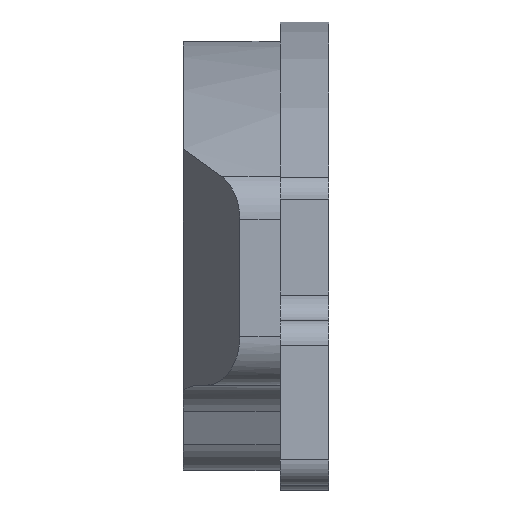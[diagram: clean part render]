
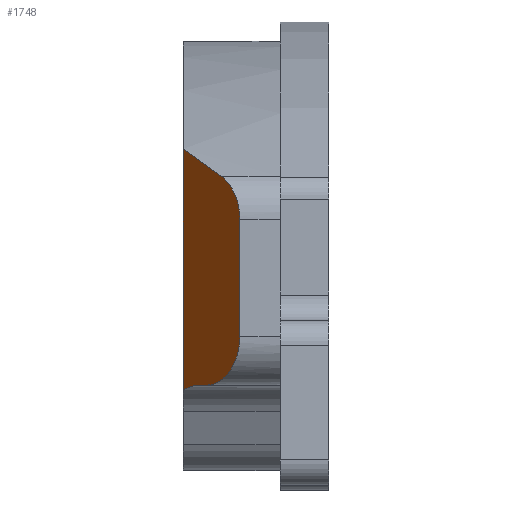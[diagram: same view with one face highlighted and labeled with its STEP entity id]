
A CAD part, left-side view. The second image highlights one B-rep face of the part: STEP entity #1748.
In plain terms, the highlighted planar face has unit normal (-0.573, 0.82, 0).
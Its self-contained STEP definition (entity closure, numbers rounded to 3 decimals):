
#3 = EDGE_CURVE ( 'NONE', #742, #447, #895, .T. ) ;
#70 = VERTEX_POINT ( 'NONE', #513 ) ;
#88 = CARTESIAN_POINT ( 'NONE',  ( -4.118, 15., -0.056 ) ) ;
#97 = ORIENTED_EDGE ( 'NONE', *, *, #3, .F. ) ;
#107 = CARTESIAN_POINT ( 'NONE',  ( -4.118, 15., -7.326 ) ) ;
#121 = CARTESIAN_POINT ( 'NONE',  ( -6.313, 13.465, -24.415 ) ) ;
#175 = EDGE_CURVE ( 'NONE', #1119, #1766, #1057, .T. ) ;
#232 = ORIENTED_EDGE ( 'NONE', *, *, #624, .F. ) ;
#249 = CARTESIAN_POINT ( 'NONE',  ( -7.921, 12.341, -1.912 ) ) ;
#273 = VERTEX_POINT ( 'NONE', #1465 ) ;
#306 = EDGE_CURVE ( 'NONE', #1766, #742, #715, .T. ) ;
#316 = B_SPLINE_CURVE_WITH_KNOTS ( 'NONE', 3,
 ( #88, #1824, #249, #389 ),
 .UNSPECIFIED., .F., .F.,
 ( 4, 4 ),
 ( 0., 0.007 ),
 .UNSPECIFIED. ) ;
#364 = ORIENTED_EDGE ( 'NONE', *, *, #643, .F. ) ;
#369 = CARTESIAN_POINT ( 'NONE',  ( -7.453, 12.668, -24.415 ) ) ;
#389 = CARTESIAN_POINT ( 'NONE',  ( -9.799, 11.027, -2.91 ) ) ;
#394 = VECTOR ( 'NONE', #1662, 1000. ) ;
#439 = LINE ( 'NONE', #107, #1713 ) ;
#447 = VERTEX_POINT ( 'NONE', #957 ) ;
#476 = EDGE_LOOP ( 'NONE', ( #232, #1545, #97, #1316, #1171, #364, #1715 ) ) ;
#491 = EDGE_CURVE ( 'NONE', #70, #447, #439, .T. ) ;
#513 = CARTESIAN_POINT ( 'NONE',  ( -4.118, 15., -0.056 ) ) ;
#544 = CARTESIAN_POINT ( 'NONE',  ( -4.118, 15., -24.923 ) ) ;
#624 = EDGE_CURVE ( 'NONE', #70, #905, #316, .T. ) ;
#641 = CARTESIAN_POINT ( 'NONE',  ( -12.453, 9.171, -7.326 ) ) ;
#643 = EDGE_CURVE ( 'NONE', #273, #1119, #1540, .T. ) ;
#715 = LINE ( 'NONE', #798, #394 ) ;
#742 = VERTEX_POINT ( 'NONE', #1518 ) ;
#756 = CARTESIAN_POINT ( 'NONE',  ( -12.453, 9.171, -19.415 ) ) ;
#798 = CARTESIAN_POINT ( 'NONE',  ( -6.358, 13.434, -24.415 ) ) ;
#824 = PLANE ( 'NONE',  #1359 ) ;
#868 = CARTESIAN_POINT ( 'NONE',  ( -12.453, 9.171, -19.415 ) ) ;
#880 = EDGE_CURVE ( 'NONE', #905, #273, #1860, .T. ) ;
#894 = FACE_OUTER_BOUND ( 'NONE', #476, .T. ) ;
#895 =( BOUNDED_CURVE ( )  B_SPLINE_CURVE ( 3, ( #121, #1707, #1402, #544 ),
 .UNSPECIFIED., .F., .T. ) 
 B_SPLINE_CURVE_WITH_KNOTS ( ( 4, 4 ),
 ( 1.571, 2.025 ),
 .UNSPECIFIED. ) 
 CURVE ( )  GEOMETRIC_REPRESENTATION_ITEM ( )  RATIONAL_B_SPLINE_CURVE ( ( 1., 0.983, 0.983, 1. ) ) 
 REPRESENTATION_ITEM ( '' )  );
#905 = VERTEX_POINT ( 'NONE', #1528 ) ;
#906 = CARTESIAN_POINT ( 'NONE',  ( -12.453, 9.171, -22.344 ) ) ;
#957 = CARTESIAN_POINT ( 'NONE',  ( -4.118, 15., -24.923 ) ) ;
#962 = DIRECTION ( 'NONE',  ( 0.82, 0.573, 0. ) ) ;
#982 = DIRECTION ( 'NONE',  ( 0., 0., -1. ) ) ;
#1018 = VECTOR ( 'NONE', #982, 1000. ) ;
#1057 =( BOUNDED_CURVE ( )  B_SPLINE_CURVE ( 3, ( #756, #906, #1198, #1484 ),
 .UNSPECIFIED., .F., .T. ) 
 B_SPLINE_CURVE_WITH_KNOTS ( ( 4, 4 ),
 ( 0., 1.571 ),
 .UNSPECIFIED. ) 
 CURVE ( )  GEOMETRIC_REPRESENTATION_ITEM ( )  RATIONAL_B_SPLINE_CURVE ( ( 1., 0.805, 0.805, 1. ) ) 
 REPRESENTATION_ITEM ( '' )  );
#1089 = CARTESIAN_POINT ( 'NONE',  ( -12.453, 9.171, -35.217 ) ) ;
#1113 = CARTESIAN_POINT ( 'NONE',  ( -9.799, 11.027, -2.91 ) ) ;
#1119 = VERTEX_POINT ( 'NONE', #868 ) ;
#1171 = ORIENTED_EDGE ( 'NONE', *, *, #175, .F. ) ;
#1198 = CARTESIAN_POINT ( 'NONE',  ( -10.382, 10.619, -24.415 ) ) ;
#1316 = ORIENTED_EDGE ( 'NONE', *, *, #306, .F. ) ;
#1359 = AXIS2_PLACEMENT_3D ( 'NONE', #1089, #1841, #962 ) ;
#1402 = CARTESIAN_POINT ( 'NONE',  ( -4.804, 14.52, -24.587 ) ) ;
#1408 = CARTESIAN_POINT ( 'NONE',  ( -11.475, 9.855, -3.801 ) ) ;
#1433 = DIRECTION ( 'NONE',  ( 0., 0., -1. ) ) ;
#1465 = CARTESIAN_POINT ( 'NONE',  ( -12.453, 9.171, -7.326 ) ) ;
#1484 = CARTESIAN_POINT ( 'NONE',  ( -7.453, 12.668, -24.415 ) ) ;
#1518 = CARTESIAN_POINT ( 'NONE',  ( -6.313, 13.465, -24.415 ) ) ;
#1528 = CARTESIAN_POINT ( 'NONE',  ( -9.799, 11.027, -2.91 ) ) ;
#1540 = LINE ( 'NONE', #1865, #1018 ) ;
#1545 = ORIENTED_EDGE ( 'NONE', *, *, #491, .T. ) ;
#1563 = CARTESIAN_POINT ( 'NONE',  ( -12.453, 9.171, -5.428 ) ) ;
#1662 = DIRECTION ( 'NONE',  ( 0.82, 0.573, 0. ) ) ;
#1707 = CARTESIAN_POINT ( 'NONE',  ( -5.549, 13.999, -24.415 ) ) ;
#1713 = VECTOR ( 'NONE', #1433, 1000. ) ;
#1715 = ORIENTED_EDGE ( 'NONE', *, *, #880, .F. ) ;
#1748 = ADVANCED_FACE ( 'NONE', ( #894 ), #824, .F. ) ;
#1766 = VERTEX_POINT ( 'NONE', #369 ) ;
#1824 = CARTESIAN_POINT ( 'NONE',  ( -6.027, 13.665, -0.96 ) ) ;
#1841 = DIRECTION ( 'NONE',  ( 0.573, -0.82, 0. ) ) ;
#1860 =( BOUNDED_CURVE ( )  B_SPLINE_CURVE ( 3, ( #1113, #1408, #1563, #641 ),
 .UNSPECIFIED., .F., .F. ) 
 B_SPLINE_CURVE_WITH_KNOTS ( ( 4, 4 ),
 ( 5.201, 6.283 ),
 .UNSPECIFIED. ) 
 CURVE ( )  GEOMETRIC_REPRESENTATION_ITEM ( )  RATIONAL_B_SPLINE_CURVE ( ( 1., 0.905, 0.905, 1. ) ) 
 REPRESENTATION_ITEM ( '' )  );
#1865 = CARTESIAN_POINT ( 'NONE',  ( -12.453, 9.171, -7.326 ) ) ;
